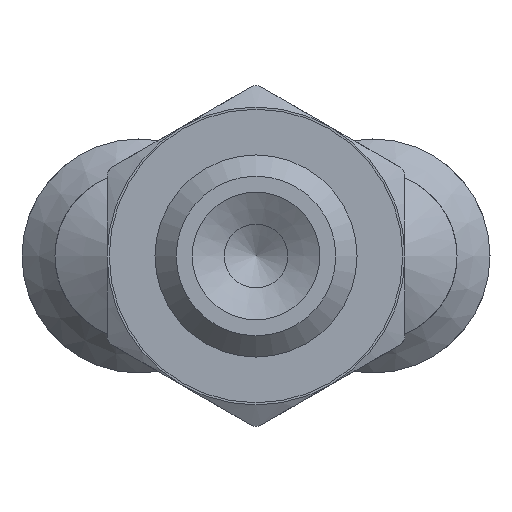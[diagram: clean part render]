
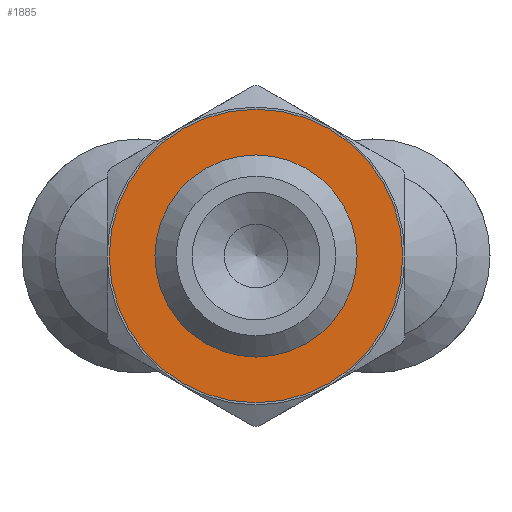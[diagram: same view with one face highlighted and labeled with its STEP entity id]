
A CAD part, left-side view. The second image highlights one B-rep face of the part: STEP entity #1885.
In plain terms, the highlighted planar face has unit normal (-1, 0, 0).
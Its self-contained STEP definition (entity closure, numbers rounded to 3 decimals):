
#264=CARTESIAN_POINT('',(-21.5,4.75,0.0));
#265=VERTEX_POINT('',#264);
#266=CARTESIAN_POINT('',(-21.5,0.0,0.0));
#267=DIRECTION('',(1.0,0.0,0.0));
#268=DIRECTION('',(0.0,1.0,0.0));
#269=AXIS2_PLACEMENT_3D('',#266,#267,#268);
#270=CIRCLE('',#269,4.75);
#271=EDGE_CURVE('',#265,#265,#270,.T.);
#1866=CARTESIAN_POINT('',(-21.5,5.825,0.0));
#1867=DIRECTION('',(-1.0,0.0,0.0));
#1868=DIRECTION('',(0.0,0.0,1.0));
#1869=AXIS2_PLACEMENT_3D('',#1866,#1867,#1868);
#1870=PLANE('',#1869);
#1871=CARTESIAN_POINT('',(-21.5,6.9,0.0));
#1872=VERTEX_POINT('',#1871);
#1873=CARTESIAN_POINT('',(-21.5,0.0,0.0));
#1874=DIRECTION('',(1.0,0.0,0.0));
#1875=DIRECTION('',(0.0,1.0,0.0));
#1876=AXIS2_PLACEMENT_3D('',#1873,#1874,#1875);
#1877=CIRCLE('',#1876,6.9);
#1878=EDGE_CURVE('',#1872,#1872,#1877,.T.);
#1879=ORIENTED_EDGE('',*,*,#1878,.F.);
#1880=EDGE_LOOP('',(#1879));
#1881=FACE_OUTER_BOUND('',#1880,.T.);
#1882=ORIENTED_EDGE('',*,*,#271,.T.);
#1883=EDGE_LOOP('',(#1882));
#1884=FACE_BOUND('',#1883,.T.);
#1885=ADVANCED_FACE('',(#1881,#1884),#1870,.T.);
